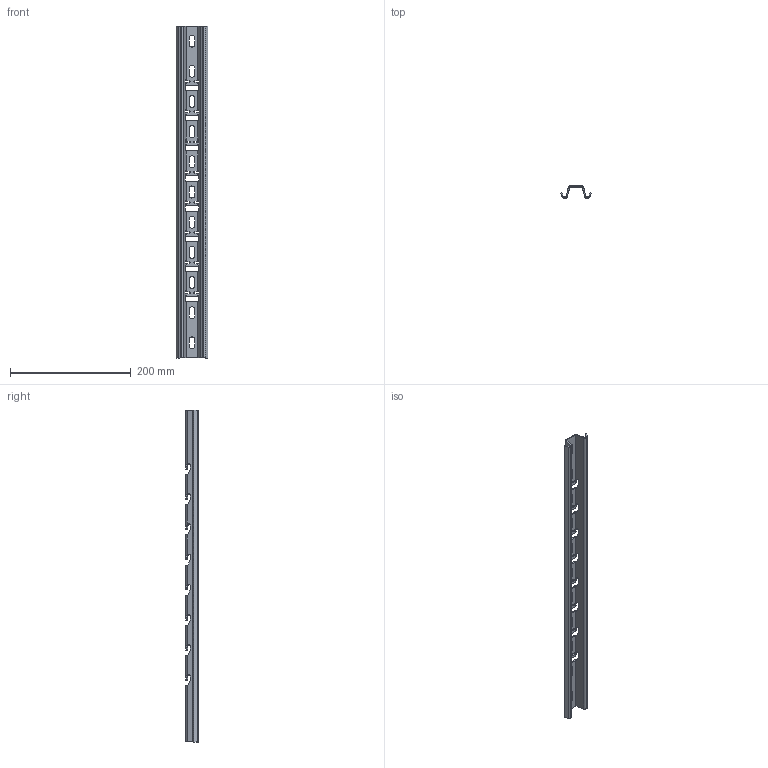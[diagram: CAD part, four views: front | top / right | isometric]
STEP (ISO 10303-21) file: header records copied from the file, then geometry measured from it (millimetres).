
FILE_DESCRIPTION (( 'STEP AP203' ), '1' );
FILE_NAME ('C-SVO 400.step', '2023-07-28T15:18:58', ( '' ), ( '' ), 'SwSTEP 2.0', 'SolidWorks 2022', '' );
FILE_SCHEMA (( 'CONFIG_CONTROL_DESIGN' ));
Length unit declared in the file: millimetre
Products named in the file (1): C-SVO 400
Bounding box: 52 x 20 x 550 mm (x, y, z)
Volume: 81881.5 mm3; surface area: 87842 mm2
Topology: 1 solids, 1 shells, 461 faces, 1185 edges, 710 vertices
Faces by surface type: plane 288, cylinder 157, bspline 16
Entity records: 14326 total; most frequent: CARTESIAN_POINT 3013, ORIENTED_EDGE 2370, DIRECTION 2327, EDGE_CURVE 1185, LINE 807, VECTOR 807, AXIS2_PLACEMENT_3D 760, VERTEX_POINT 710
